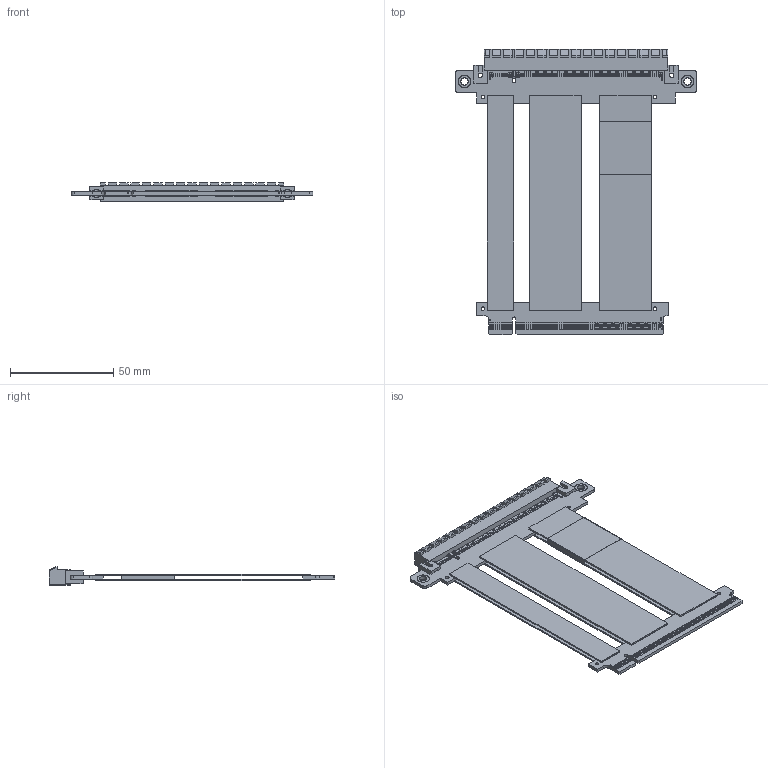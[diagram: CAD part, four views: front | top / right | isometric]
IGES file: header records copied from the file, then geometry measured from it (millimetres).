
Global section: file name: Q:\us254833\2022 Jobs\Lettang_MFG_dwgs_PCIE_wr13225\8KCH-0965\8KCH-0965-XXXX_iges.igs; native system: NX V12.0; preprocessor: SIEMENS PLM Software NX 12.0; date: 20220818.151712; units: millimetre
Bounding box: 117 x 138 x 8.8 mm (x, y, z)
Surface area: 42540.2 mm2 (no closed solid volume)
Topology: 0 solids, 0 shells, 4024 faces, 20331 edges, 20303 vertices
Faces by surface type: bspline 4024
